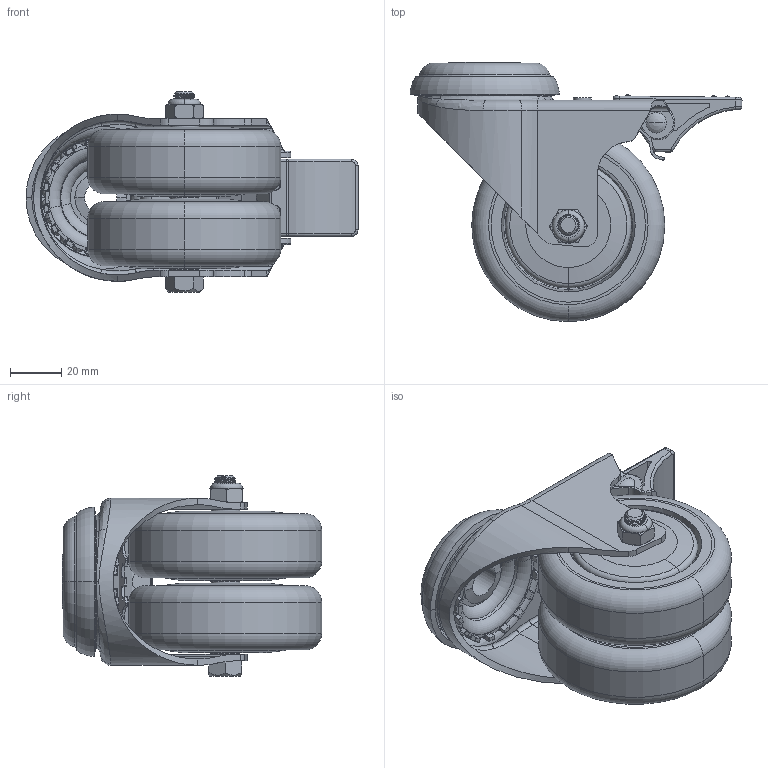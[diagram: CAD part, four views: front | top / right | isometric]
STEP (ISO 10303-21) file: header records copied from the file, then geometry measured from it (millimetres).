
FILE_DESCRIPTION((''),'2;1');
FILE_NAME('2053-75_ASM','2022-08-26T',('Administrator'),('SKYSAN_ID TECH CO,'),'PRO/ENGINEER BY PARAMETRIC TECHNOLOGY CORPORATION, 2010020','PRO/ENGINEER BY PARAMETRIC TECHNOLOGY CORPORATION, 2010020','');
FILE_SCHEMA(('CONFIG_CONTROL_DESIGN'));
Length unit declared in the file: millimetre
Products named in the file (19): 75SLJZ___; BJ6___; 75SL-DBP___; 75SL-SBP___; BJ5___; SL-SW___; M8X60LS___; 75SUANLENMENPAN___; M1__; D1__; 75X25ZHOUCHENGNEIXIN___; 75X25TPRLUN___; PRT0006___; 75X25WAIQUAN___; 6000__; 75-_ASM; K; M8LM__; 2053-75_ASM
Assembly tree (20 placements, depth 3):
  2053-75_ASM
    75SLJZ___
    BJ6___
    75SL-DBP___
    75SL-SBP___
    BJ5___
    SL-SW___
    M8X60LS___
    75SUANLENMENPAN___
    M1__  x2
    D1__
    75-_ASM  x2
      75X25ZHOUCHENGNEIXIN___
      75X25TPRLUN___
      PRT0006___
      75X25WAIQUAN___
      6000__
    K
    M8LM__
Bounding box: 129 x 100.8 x 78 mm (x, y, z)
Volume: 209766.7 mm3; surface area: 148393.3 mm2
Topology: 88 solids, 88 shells, 1391 faces, 3455 edges, 2073 vertices
Faces by surface type: cylinder 523, plane 345, cone 186, torus 146, sphere 136, bspline 55
Entity records: 40338 total; most frequent: CARTESIAN_POINT 15075, DIRECTION 5227, ORIENTED_EDGE 5134, EDGE_CURVE 2567, AXIS2_PLACEMENT_3D 2144, VERTEX_POINT 1665, EDGE_LOOP 1202, FACE_OUTER_BOUND 1099
